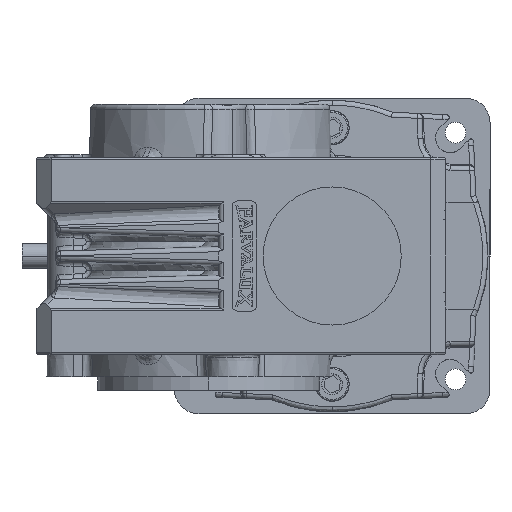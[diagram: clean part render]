
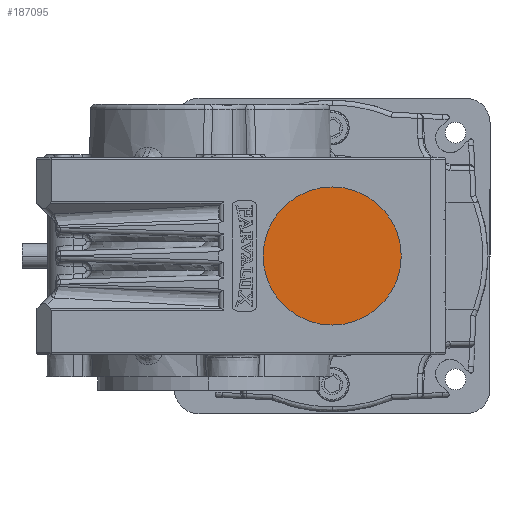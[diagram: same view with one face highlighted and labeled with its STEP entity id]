
A CAD part, left-side view. The second image highlights one B-rep face of the part: STEP entity #187095.
In plain terms, the highlighted planar face has unit normal (-1, 0, 0).
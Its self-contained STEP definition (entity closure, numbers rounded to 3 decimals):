
#6244 = CARTESIAN_POINT ( 'NONE',  ( -152.84, 32., -32. ) ) ;
#13584 = PLANE ( 'NONE',  #228576 ) ;
#20383 = CARTESIAN_POINT ( 'NONE',  ( -152.84, 32., -46. ) ) ;
#28722 = DIRECTION ( 'NONE',  ( -1., 0., 0. ) ) ;
#39993 = DIRECTION ( 'NONE',  ( -1., 0., 0. ) ) ;
#41503 = EDGE_CURVE ( 'NONE', #59676, #88996, #152601, .T. ) ;
#59676 = VERTEX_POINT ( 'NONE', #20383 ) ;
#70883 = ORIENTED_EDGE ( 'NONE', *, *, #178102, .T. ) ;
#81130 = DIRECTION ( 'NONE',  ( 0., 0., -1. ) ) ;
#88996 = VERTEX_POINT ( 'NONE', #107528 ) ;
#107169 = DIRECTION ( 'NONE',  ( -1., 0., 0. ) ) ;
#107528 = CARTESIAN_POINT ( 'NONE',  ( -152.84, 32., -18. ) ) ;
#111890 = AXIS2_PLACEMENT_3D ( 'NONE', #143146, #107169, #164029 ) ;
#120633 = CARTESIAN_POINT ( 'NONE',  ( -152.84, 32., -32. ) ) ;
#136789 = CIRCLE ( 'NONE', #166556, 14. ) ;
#139951 = EDGE_LOOP ( 'NONE', ( #70883, #143505 ) ) ;
#143146 = CARTESIAN_POINT ( 'NONE',  ( -152.84, 32., -32. ) ) ;
#143505 = ORIENTED_EDGE ( 'NONE', *, *, #41503, .T. ) ;
#152601 = CIRCLE ( 'NONE', #111890, 14. ) ;
#164029 = DIRECTION ( 'NONE',  ( 0., 0., -1. ) ) ;
#166556 = AXIS2_PLACEMENT_3D ( 'NONE', #6244, #39993, #202813 ) ;
#178102 = EDGE_CURVE ( 'NONE', #88996, #59676, #136789, .T. ) ;
#187095 = ADVANCED_FACE ( 'NONE', ( #208960 ), #13584, .T. ) ;
#202813 = DIRECTION ( 'NONE',  ( 0., 0., -1. ) ) ;
#208960 = FACE_OUTER_BOUND ( 'NONE', #139951, .T. ) ;
#228576 = AXIS2_PLACEMENT_3D ( 'NONE', #120633, #28722, #81130 ) ;
